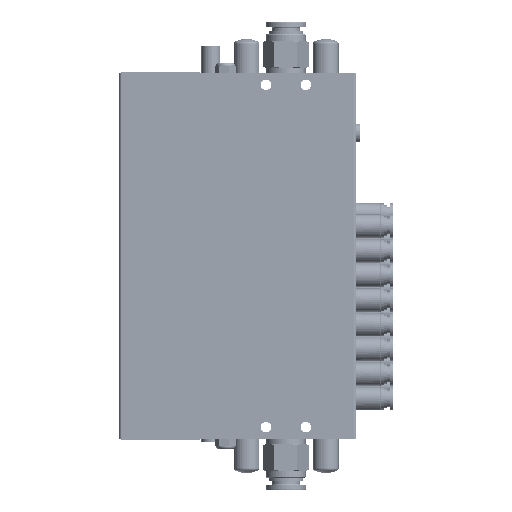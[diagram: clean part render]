
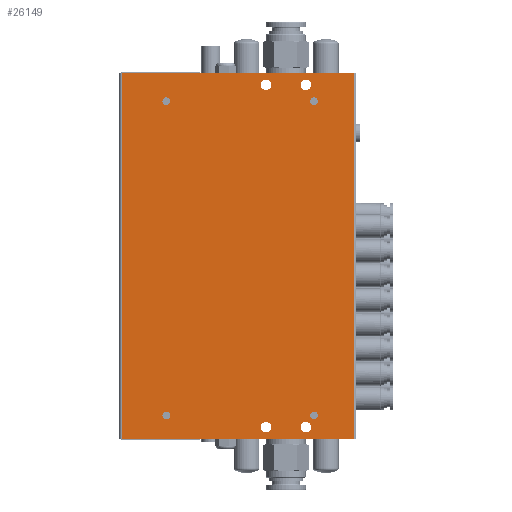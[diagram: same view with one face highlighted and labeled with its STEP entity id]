
A CAD part, front view. The second image highlights one B-rep face of the part: STEP entity #26149.
In plain terms, the highlighted planar face has unit normal (0, -1, 0).
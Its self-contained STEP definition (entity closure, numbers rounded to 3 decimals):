
#18425=FACE_BOUND('',#35347,.T.);
#18426=FACE_BOUND('',#35348,.T.);
#18427=FACE_BOUND('',#35349,.T.);
#18428=FACE_BOUND('',#35350,.T.);
#18429=FACE_BOUND('',#35351,.T.);
#18430=FACE_BOUND('',#35352,.T.);
#18431=FACE_BOUND('',#35353,.T.);
#18432=FACE_BOUND('',#35354,.T.);
#18433=FACE_BOUND('',#35355,.T.);
#22260=CIRCLE('',#85039,1.65);
#22261=CIRCLE('',#85041,1.65);
#22263=CIRCLE('',#85044,2.25);
#22264=CIRCLE('',#85046,2.25);
#22330=CIRCLE('',#85147,2.25);
#22331=CIRCLE('',#85148,2.25);
#22332=CIRCLE('',#85149,1.65);
#22333=CIRCLE('',#85150,1.65);
#26149=ADVANCED_FACE('',(#18425,#18426,#18427,#18428,#18429,#18430,#18431,
#18432,#18433),#28208,.T.);
#28208=PLANE('',#85151);
#35347=EDGE_LOOP('',(#51114,#51115,#51116,#51117));
#35348=EDGE_LOOP('',(#51118));
#35349=EDGE_LOOP('',(#51119));
#35350=EDGE_LOOP('',(#51120));
#35351=EDGE_LOOP('',(#51121));
#35352=EDGE_LOOP('',(#51122));
#35353=EDGE_LOOP('',(#51123));
#35354=EDGE_LOOP('',(#51124));
#35355=EDGE_LOOP('',(#51125));
#51114=ORIENTED_EDGE('',*,*,#66941,.T.);
#51115=ORIENTED_EDGE('',*,*,#66942,.T.);
#51116=ORIENTED_EDGE('',*,*,#66943,.T.);
#51117=ORIENTED_EDGE('',*,*,#66934,.F.);
#51118=ORIENTED_EDGE('',*,*,#66764,.F.);
#51119=ORIENTED_EDGE('',*,*,#66763,.F.);
#51120=ORIENTED_EDGE('',*,*,#66761,.F.);
#51121=ORIENTED_EDGE('',*,*,#66760,.T.);
#51122=ORIENTED_EDGE('',*,*,#66944,.F.);
#51123=ORIENTED_EDGE('',*,*,#66945,.F.);
#51124=ORIENTED_EDGE('',*,*,#66946,.F.);
#51125=ORIENTED_EDGE('',*,*,#66947,.T.);
#58505=VERTEX_POINT('',#127778);
#58506=VERTEX_POINT('',#127781);
#58508=VERTEX_POINT('',#127786);
#58509=VERTEX_POINT('',#127789);
#58648=VERTEX_POINT('',#128699);
#58649=VERTEX_POINT('',#128700);
#58654=VERTEX_POINT('',#128713);
#58655=VERTEX_POINT('',#128715);
#58656=VERTEX_POINT('',#128718);
#58657=VERTEX_POINT('',#128720);
#58658=VERTEX_POINT('',#128722);
#58659=VERTEX_POINT('',#128724);
#66760=EDGE_CURVE('',#58505,#58505,#22260,.T.);
#66761=EDGE_CURVE('',#58506,#58506,#22261,.T.);
#66763=EDGE_CURVE('',#58508,#58508,#22263,.T.);
#66764=EDGE_CURVE('',#58509,#58509,#22264,.T.);
#66934=EDGE_CURVE('',#58648,#58649,#71968,.T.);
#66941=EDGE_CURVE('',#58648,#58654,#71971,.T.);
#66942=EDGE_CURVE('',#58654,#58655,#71972,.T.);
#66943=EDGE_CURVE('',#58655,#58649,#71973,.T.);
#66944=EDGE_CURVE('',#58656,#58656,#22330,.T.);
#66945=EDGE_CURVE('',#58657,#58657,#22331,.T.);
#66946=EDGE_CURVE('',#58658,#58658,#22332,.T.);
#66947=EDGE_CURVE('',#58659,#58659,#22333,.T.);
#71968=LINE('',#128698,#76192);
#71971=LINE('',#128712,#76195);
#71972=LINE('',#128714,#76196);
#71973=LINE('',#128716,#76197);
#76192=VECTOR('',#102338,1.);
#76195=VECTOR('',#102351,1.);
#76196=VECTOR('',#102352,1.);
#76197=VECTOR('',#102353,1.);
#85039=AXIS2_PLACEMENT_3D('',#127777,#102033,#102034);
#85041=AXIS2_PLACEMENT_3D('',#127780,#102037,#102038);
#85044=AXIS2_PLACEMENT_3D('',#127785,#102043,#102044);
#85046=AXIS2_PLACEMENT_3D('',#127788,#102047,#102048);
#85147=AXIS2_PLACEMENT_3D('',#128717,#102354,#102355);
#85148=AXIS2_PLACEMENT_3D('',#128719,#102356,#102357);
#85149=AXIS2_PLACEMENT_3D('',#128721,#102358,#102359);
#85150=AXIS2_PLACEMENT_3D('',#128723,#102360,#102361);
#85151=AXIS2_PLACEMENT_3D('',#128725,#102362,#102363);
#102033=DIRECTION('',(0.,1.,0.));
#102034=DIRECTION('',(0.,0.,-1.));
#102037=DIRECTION('',(0.,-1.,0.));
#102038=DIRECTION('',(0.,0.,-1.));
#102043=DIRECTION('',(0.,-1.,0.));
#102044=DIRECTION('',(0.,0.,-1.));
#102047=DIRECTION('',(0.,-1.,0.));
#102048=DIRECTION('',(0.,0.,-1.));
#102338=DIRECTION('',(1.,0.,0.));
#102351=DIRECTION('',(0.,0.,-1.));
#102352=DIRECTION('',(1.,0.,0.));
#102353=DIRECTION('',(0.,0.,1.));
#102354=DIRECTION('',(0.,-1.,0.));
#102355=DIRECTION('',(0.,0.,-1.));
#102356=DIRECTION('',(0.,-1.,0.));
#102357=DIRECTION('',(0.,0.,-1.));
#102358=DIRECTION('',(0.,-1.,0.));
#102359=DIRECTION('',(0.,0.,-1.));
#102360=DIRECTION('',(0.,1.,0.));
#102361=DIRECTION('',(0.,0.,-1.));
#102362=DIRECTION('',(0.,-1.,0.));
#102363=DIRECTION('',(0.,0.,-1.));
#127777=CARTESIAN_POINT('',(-31.5,-23.,60.));
#127778=CARTESIAN_POINT('',(-31.5,-23.,58.35));
#127780=CARTESIAN_POINT('',(31.5,-23.,60.));
#127781=CARTESIAN_POINT('',(31.5,-23.,58.35));
#127785=CARTESIAN_POINT('',(11.,-23.,67.));
#127786=CARTESIAN_POINT('',(11.,-23.,64.75));
#127788=CARTESIAN_POINT('',(28.,-23.,67.));
#127789=CARTESIAN_POINT('',(28.,-23.,64.75));
#128698=CARTESIAN_POINT('',(52.5,-23.,72.));
#128699=CARTESIAN_POINT('',(-50.5,-23.,72.));
#128700=CARTESIAN_POINT('',(48.5,-23.,72.));
#128712=CARTESIAN_POINT('',(-50.5,-23.,-39.));
#128713=CARTESIAN_POINT('',(-50.5,-23.,-84.));
#128714=CARTESIAN_POINT('',(52.5,-23.,-84.));
#128715=CARTESIAN_POINT('',(48.5,-23.,-84.));
#128716=CARTESIAN_POINT('',(48.5,-23.,72.));
#128717=CARTESIAN_POINT('',(28.,-23.,-79.));
#128718=CARTESIAN_POINT('',(28.,-23.,-81.25));
#128719=CARTESIAN_POINT('',(11.,-23.,-79.));
#128720=CARTESIAN_POINT('',(11.,-23.,-81.25));
#128721=CARTESIAN_POINT('',(31.5,-23.,-74.));
#128722=CARTESIAN_POINT('',(31.5,-23.,-75.65));
#128723=CARTESIAN_POINT('',(-31.5,-23.,-74.));
#128724=CARTESIAN_POINT('',(-31.5,-23.,-75.65));
#128725=CARTESIAN_POINT('',(-52.5,-23.,-39.));
